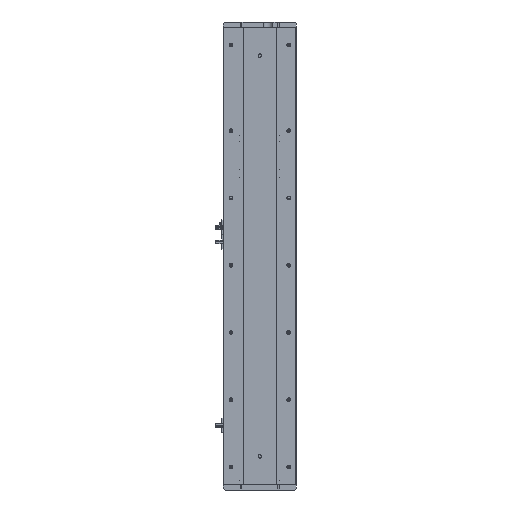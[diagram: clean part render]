
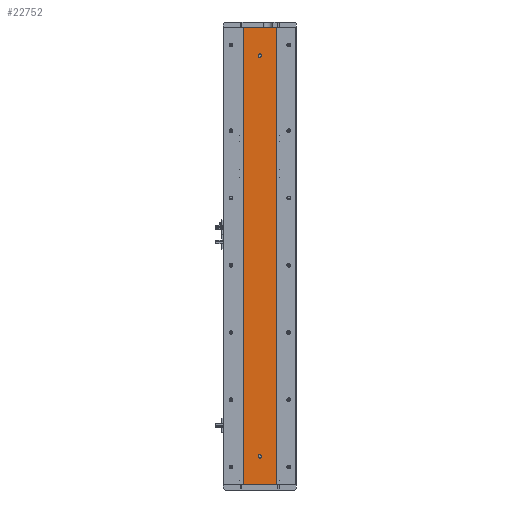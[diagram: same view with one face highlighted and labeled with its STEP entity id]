
A CAD part, left-side view. The second image highlights one B-rep face of the part: STEP entity #22752.
In plain terms, the highlighted planar face has unit normal (-1, 0, 0).
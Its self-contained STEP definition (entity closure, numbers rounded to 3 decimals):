
#392 = EDGE_CURVE ( 'NONE', #33702, #9989, #7160, .T. ) ;
#1171 = AXIS2_PLACEMENT_3D ( 'NONE', #8797, #21323, #21089 ) ;
#2126 = CARTESIAN_POINT ( 'NONE',  ( -24.994, 0., 765. ) ) ;
#2257 = DIRECTION ( 'NONE',  ( 0., 0., -1. ) ) ;
#2320 = DIRECTION ( 'NONE',  ( 0., 0., 1. ) ) ;
#2473 = CARTESIAN_POINT ( 'NONE',  ( -24.994, 29.785, 815. ) ) ;
#2904 = VECTOR ( 'NONE', #2257, 1000. ) ;
#3392 = DIRECTION ( 'NONE',  ( 1., 0., 0. ) ) ;
#4704 = DIRECTION ( 'NONE',  ( 0., 0., 1. ) ) ;
#5245 = EDGE_CURVE ( 'NONE', #23329, #5386, #33479, .T. ) ;
#5386 = VERTEX_POINT ( 'NONE', #21238 ) ;
#6764 = DIRECTION ( 'NONE',  ( -1., 0., 0. ) ) ;
#7081 = EDGE_LOOP ( 'NONE', ( #8129, #15115 ) ) ;
#7160 = CIRCLE ( 'NONE', #1171, 3. ) ;
#7608 = CARTESIAN_POINT ( 'NONE',  ( -24.994, 29.785, 815. ) ) ;
#8129 = ORIENTED_EDGE ( 'NONE', *, *, #15614, .F. ) ;
#8462 = CIRCLE ( 'NONE', #24649, 3. ) ;
#8797 = CARTESIAN_POINT ( 'NONE',  ( -24.994, 0., 50. ) ) ;
#8885 = EDGE_LOOP ( 'NONE', ( #23846, #11802, #26389, #12210 ) ) ;
#9015 = DIRECTION ( 'NONE',  ( 0., -1., 0. ) ) ;
#9267 = VERTEX_POINT ( 'NONE', #18378 ) ;
#9479 = EDGE_CURVE ( 'NONE', #5386, #16763, #18747, .T. ) ;
#9989 = VERTEX_POINT ( 'NONE', #20826 ) ;
#9993 = EDGE_LOOP ( 'NONE', ( #11877, #25892 ) ) ;
#10254 = CIRCLE ( 'NONE', #14663, 3. ) ;
#11802 = ORIENTED_EDGE ( 'NONE', *, *, #25229, .F. ) ;
#11877 = ORIENTED_EDGE ( 'NONE', *, *, #16937, .F. ) ;
#12210 = ORIENTED_EDGE ( 'NONE', *, *, #5245, .T. ) ;
#12615 = CARTESIAN_POINT ( 'NONE',  ( -24.994, -29.785, 815. ) ) ;
#14663 = AXIS2_PLACEMENT_3D ( 'NONE', #33484, #17821, #2320 ) ;
#15115 = ORIENTED_EDGE ( 'NONE', *, *, #22187, .F. ) ;
#15614 = EDGE_CURVE ( 'NONE', #9267, #32047, #10254, .T. ) ;
#15845 = CARTESIAN_POINT ( 'NONE',  ( -24.994, -29.785, 0. ) ) ;
#16075 = CARTESIAN_POINT ( 'NONE',  ( -24.994, 0., 47. ) ) ;
#16687 = LINE ( 'NONE', #12615, #2904 ) ;
#16696 = CARTESIAN_POINT ( 'NONE',  ( -24.994, 29.785, 0. ) ) ;
#16763 = VERTEX_POINT ( 'NONE', #15845 ) ;
#16937 = EDGE_CURVE ( 'NONE', #9989, #33702, #8462, .T. ) ;
#17571 = EDGE_CURVE ( 'NONE', #23329, #29470, #32396, .T. ) ;
#17821 = DIRECTION ( 'NONE',  ( -1., 0., 0. ) ) ;
#18378 = CARTESIAN_POINT ( 'NONE',  ( -24.994, 0., 768. ) ) ;
#18435 = FACE_OUTER_BOUND ( 'NONE', #8885, .T. ) ;
#18747 = LINE ( 'NONE', #16696, #25689 ) ;
#18864 = CARTESIAN_POINT ( 'NONE',  ( -24.994, 29.785, 815. ) ) ;
#18888 = CARTESIAN_POINT ( 'NONE',  ( -24.994, 0., 762. ) ) ;
#18940 = CARTESIAN_POINT ( 'NONE',  ( -24.994, 29.785, 815. ) ) ;
#19242 = FACE_BOUND ( 'NONE', #7081, .T. ) ;
#19421 = AXIS2_PLACEMENT_3D ( 'NONE', #2126, #20229, #4704 ) ;
#19530 = VECTOR ( 'NONE', #28478, 1000. ) ;
#20186 = CARTESIAN_POINT ( 'NONE',  ( -24.994, -29.785, 815. ) ) ;
#20229 = DIRECTION ( 'NONE',  ( -1., 0., 0. ) ) ;
#20826 = CARTESIAN_POINT ( 'NONE',  ( -24.994, 0., 53. ) ) ;
#21089 = DIRECTION ( 'NONE',  ( 0., 0., 1. ) ) ;
#21090 = CIRCLE ( 'NONE', #19421, 3. ) ;
#21238 = CARTESIAN_POINT ( 'NONE',  ( -24.994, 29.785, 0. ) ) ;
#21323 = DIRECTION ( 'NONE',  ( -1., 0., 0. ) ) ;
#21485 = DIRECTION ( 'NONE',  ( 0., 0., -1. ) ) ;
#22187 = EDGE_CURVE ( 'NONE', #32047, #9267, #21090, .T. ) ;
#22281 = CARTESIAN_POINT ( 'NONE',  ( -24.994, 0., 50. ) ) ;
#22752 = ADVANCED_FACE ( 'NONE', ( #19242, #32370, #18435 ), #29171, .F. ) ;
#23108 = DIRECTION ( 'NONE',  ( 0., -1., 0. ) ) ;
#23329 = VERTEX_POINT ( 'NONE', #18940 ) ;
#23846 = ORIENTED_EDGE ( 'NONE', *, *, #9479, .T. ) ;
#24475 = AXIS2_PLACEMENT_3D ( 'NONE', #18864, #3392, #21485 ) ;
#24649 = AXIS2_PLACEMENT_3D ( 'NONE', #22281, #6764, #24887 ) ;
#24887 = DIRECTION ( 'NONE',  ( 0., 0., 1. ) ) ;
#25229 = EDGE_CURVE ( 'NONE', #29470, #16763, #16687, .T. ) ;
#25689 = VECTOR ( 'NONE', #9015, 1000. ) ;
#25892 = ORIENTED_EDGE ( 'NONE', *, *, #392, .F. ) ;
#26389 = ORIENTED_EDGE ( 'NONE', *, *, #17571, .F. ) ;
#28478 = DIRECTION ( 'NONE',  ( 0., 0., -1. ) ) ;
#29171 = PLANE ( 'NONE',  #24475 ) ;
#29470 = VERTEX_POINT ( 'NONE', #20186 ) ;
#31551 = VECTOR ( 'NONE', #23108, 1000. ) ;
#32047 = VERTEX_POINT ( 'NONE', #18888 ) ;
#32370 = FACE_BOUND ( 'NONE', #9993, .T. ) ;
#32396 = LINE ( 'NONE', #7608, #31551 ) ;
#33479 = LINE ( 'NONE', #2473, #19530 ) ;
#33484 = CARTESIAN_POINT ( 'NONE',  ( -24.994, 0., 765. ) ) ;
#33702 = VERTEX_POINT ( 'NONE', #16075 ) ;
